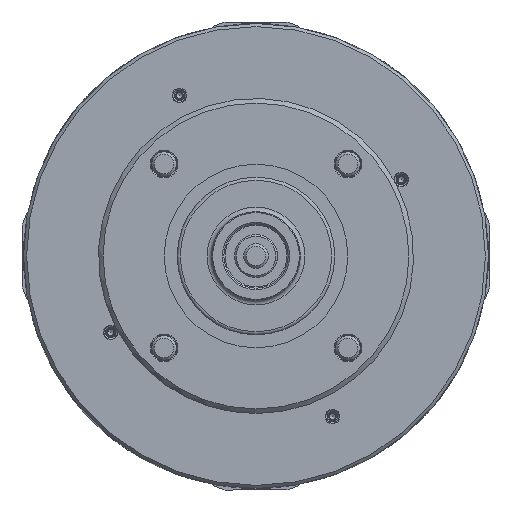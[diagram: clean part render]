
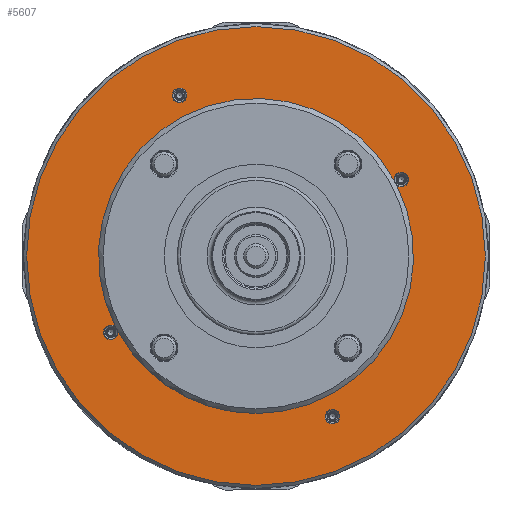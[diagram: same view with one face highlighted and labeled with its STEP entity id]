
A CAD part, left-side view. The second image highlights one B-rep face of the part: STEP entity #5607.
In plain terms, the highlighted planar face has unit normal (-1, 0, 0).
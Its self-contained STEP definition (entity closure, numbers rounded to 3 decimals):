
#554 = VERTEX_POINT ( 'NONE', #1114 ) ;
#1114 = CARTESIAN_POINT ( 'NONE',  ( -107., 50., 100.25 ) ) ;
#3277 = CIRCLE ( 'NONE', #17665, 4.75 ) ;
#5144 = VERTEX_POINT ( 'NONE', #59979 ) ;
#5228 = CARTESIAN_POINT ( 'NONE',  ( -107., 95., -50. ) ) ;
#5607 = ADVANCED_FACE ( 'NONE', ( #22036, #31634, #20949, #37900 ), #48030, .F. ) ;
#7376 = AXIS2_PLACEMENT_3D ( 'NONE', #100500, #12501, #64427 ) ;
#9212 = CARTESIAN_POINT ( 'NONE',  ( -107., -91.997, 46.319 ) ) ;
#10321 = CARTESIAN_POINT ( 'NONE',  ( -107., 0., 0. ) ) ;
#11173 = EDGE_CURVE ( 'NONE', #5144, #40032, #3277, .T. ) ;
#12501 = DIRECTION ( 'NONE',  ( 1., 0., 0. ) ) ;
#16309 = EDGE_LOOP ( 'NONE', ( #51611 ) ) ;
#17665 = AXIS2_PLACEMENT_3D ( 'NONE', #5228, #30030, #99461 ) ;
#18009 = DIRECTION ( 'NONE',  ( 1., 0., 0. ) ) ;
#20717 = DIRECTION ( 'NONE',  ( 1., 0., 0. ) ) ;
#20949 = FACE_OUTER_BOUND ( 'NONE', #93644, .T. ) ;
#22036 = FACE_BOUND ( 'NONE', #81152, .T. ) ;
#23313 = CIRCLE ( 'NONE', #70202, 103. ) ;
#23620 = DIRECTION ( 'NONE',  ( 0., 0., -1. ) ) ;
#24517 = CARTESIAN_POINT ( 'NONE',  ( -107., -50., -109.75 ) ) ;
#27226 = DIRECTION ( 'NONE',  ( 1., 0., 0. ) ) ;
#28644 = CARTESIAN_POINT ( 'NONE',  ( -107., -50., -105. ) ) ;
#30030 = DIRECTION ( 'NONE',  ( 1., 0., 0. ) ) ;
#31634 = FACE_BOUND ( 'NONE', #16309, .T. ) ;
#31862 = CARTESIAN_POINT ( 'NONE',  ( -107., 91.997, -46.319 ) ) ;
#32834 = AXIS2_PLACEMENT_3D ( 'NONE', #106229, #72929, #23620 ) ;
#34465 = CARTESIAN_POINT ( 'NONE',  ( -107., -90.266, 49.609 ) ) ;
#36571 = DIRECTION ( 'NONE',  ( 0., 0., -1. ) ) ;
#37900 = FACE_BOUND ( 'NONE', #89195, .T. ) ;
#40032 = VERTEX_POINT ( 'NONE', #31862 ) ;
#41863 = CIRCLE ( 'NONE', #32834, 4.75 ) ;
#43254 = VERTEX_POINT ( 'NONE', #9212 ) ;
#44427 = ORIENTED_EDGE ( 'NONE', *, *, #11173, .T. ) ;
#45113 = EDGE_CURVE ( 'NONE', #101846, #101846, #72454, .T. ) ;
#46653 = CIRCLE ( 'NONE', #88165, 150. ) ;
#48030 = PLANE ( 'NONE',  #7376 ) ;
#51228 = DIRECTION ( 'NONE',  ( 1., 0., 0. ) ) ;
#51611 = ORIENTED_EDGE ( 'NONE', *, *, #88785, .T. ) ;
#53622 = EDGE_CURVE ( 'NONE', #107402, #43254, #41863, .T. ) ;
#53762 = DIRECTION ( 'NONE',  ( 0., 0., -1. ) ) ;
#54304 = AXIS2_PLACEMENT_3D ( 'NONE', #85643, #51228, #83413 ) ;
#56148 = AXIS2_PLACEMENT_3D ( 'NONE', #28644, #20717, #36571 ) ;
#59979 = CARTESIAN_POINT ( 'NONE',  ( -107., 90.266, -49.609 ) ) ;
#64427 = DIRECTION ( 'NONE',  ( 0., 0., -1. ) ) ;
#64431 = EDGE_CURVE ( 'NONE', #40032, #107402, #84289, .T. ) ;
#65023 = ORIENTED_EDGE ( 'NONE', *, *, #45113, .T. ) ;
#66148 = ORIENTED_EDGE ( 'NONE', *, *, #53622, .T. ) ;
#67733 = VERTEX_POINT ( 'NONE', #110016 ) ;
#69049 = EDGE_CURVE ( 'NONE', #67733, #67733, #46653, .T. ) ;
#69326 = EDGE_CURVE ( 'NONE', #43254, #5144, #23313, .T. ) ;
#69904 = AXIS2_PLACEMENT_3D ( 'NONE', #102136, #18009, #95895 ) ;
#70103 = ORIENTED_EDGE ( 'NONE', *, *, #64431, .T. ) ;
#70202 = AXIS2_PLACEMENT_3D ( 'NONE', #108956, #95390, #87491 ) ;
#71656 = ORIENTED_EDGE ( 'NONE', *, *, #69049, .F. ) ;
#72454 = CIRCLE ( 'NONE', #56148, 4.75 ) ;
#72929 = DIRECTION ( 'NONE',  ( 1., 0., 0. ) ) ;
#81152 = EDGE_LOOP ( 'NONE', ( #65023 ) ) ;
#83413 = DIRECTION ( 'NONE',  ( 0., 0., -1. ) ) ;
#84289 = CIRCLE ( 'NONE', #69904, 103. ) ;
#85643 = CARTESIAN_POINT ( 'NONE',  ( -107., 50., 105. ) ) ;
#87491 = DIRECTION ( 'NONE',  ( 0., 0., -1. ) ) ;
#88165 = AXIS2_PLACEMENT_3D ( 'NONE', #10321, #27226, #53762 ) ;
#88785 = EDGE_CURVE ( 'NONE', #554, #554, #90350, .T. ) ;
#89195 = EDGE_LOOP ( 'NONE', ( #93781, #44427, #70103, #66148 ) ) ;
#90350 = CIRCLE ( 'NONE', #54304, 4.75 ) ;
#93644 = EDGE_LOOP ( 'NONE', ( #71656 ) ) ;
#93781 = ORIENTED_EDGE ( 'NONE', *, *, #69326, .T. ) ;
#95390 = DIRECTION ( 'NONE',  ( 1., 0., 0. ) ) ;
#95895 = DIRECTION ( 'NONE',  ( 0., 0., -1. ) ) ;
#99461 = DIRECTION ( 'NONE',  ( 0., 0., -1. ) ) ;
#100500 = CARTESIAN_POINT ( 'NONE',  ( -107., -103., 0. ) ) ;
#101846 = VERTEX_POINT ( 'NONE', #24517 ) ;
#102136 = CARTESIAN_POINT ( 'NONE',  ( -107., 0., 0. ) ) ;
#106229 = CARTESIAN_POINT ( 'NONE',  ( -107., -95., 50. ) ) ;
#107402 = VERTEX_POINT ( 'NONE', #34465 ) ;
#108956 = CARTESIAN_POINT ( 'NONE',  ( -107., 0., 0. ) ) ;
#110016 = CARTESIAN_POINT ( 'NONE',  ( -107., 0., -150. ) ) ;
